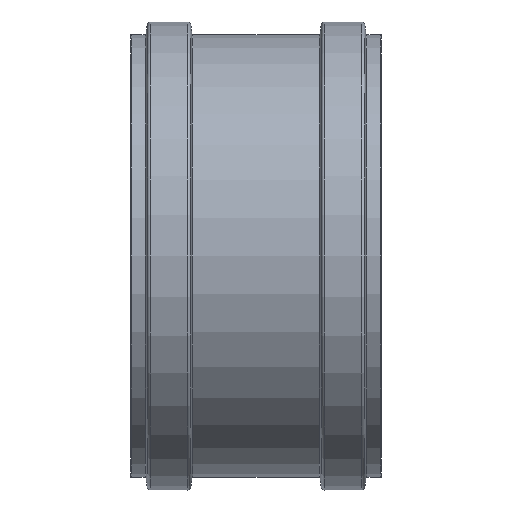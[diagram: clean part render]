
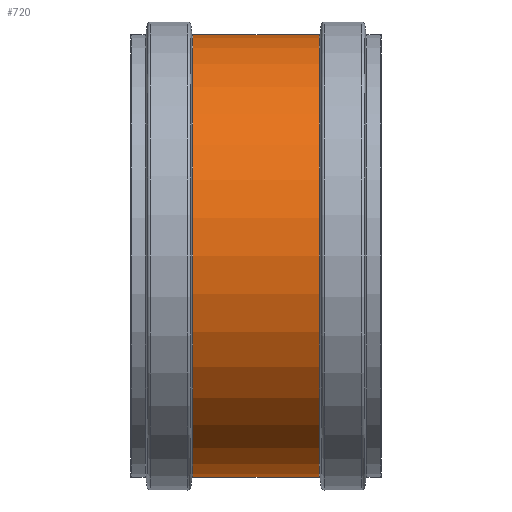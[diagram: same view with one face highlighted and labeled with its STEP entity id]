
A CAD part, left-side view. The second image highlights one B-rep face of the part: STEP entity #720.
In plain terms, the highlighted cylindrical face has radius 261.85 mm (diameter 523.7 mm), a full revolution.
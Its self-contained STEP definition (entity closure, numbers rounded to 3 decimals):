
#36=LINE('',#1366,#54);
#54=VECTOR('',#1123,261.85);
#66=CYLINDRICAL_SURFACE('',#859,261.85);
#104=FACE_OUTER_BOUND('',#146,.T.);
#146=EDGE_LOOP('',(#615,#616,#617,#618,#619,#620));
#229=CIRCLE('',#857,261.85);
#230=CIRCLE('',#858,261.85);
#231=CIRCLE('',#860,261.85);
#232=CIRCLE('',#861,261.85);
#309=VERTEX_POINT('',#1356);
#310=VERTEX_POINT('',#1358);
#311=VERTEX_POINT('',#1362);
#312=VERTEX_POINT('',#1363);
#414=EDGE_CURVE('',#310,#309,#229,.T.);
#415=EDGE_CURVE('',#309,#310,#230,.T.);
#416=EDGE_CURVE('',#311,#312,#231,.T.);
#417=EDGE_CURVE('',#312,#311,#232,.T.);
#418=EDGE_CURVE('',#312,#310,#36,.T.);
#615=ORIENTED_EDGE('',*,*,#416,.F.);
#616=ORIENTED_EDGE('',*,*,#417,.F.);
#617=ORIENTED_EDGE('',*,*,#418,.T.);
#618=ORIENTED_EDGE('',*,*,#414,.T.);
#619=ORIENTED_EDGE('',*,*,#415,.T.);
#620=ORIENTED_EDGE('',*,*,#418,.F.);
#720=ADVANCED_FACE('',(#104),#66,.T.);
#857=AXIS2_PLACEMENT_3D('',#1359,#1113,#1114);
#858=AXIS2_PLACEMENT_3D('',#1360,#1115,#1116);
#859=AXIS2_PLACEMENT_3D('',#1361,#1117,#1118);
#860=AXIS2_PLACEMENT_3D('',#1364,#1119,#1120);
#861=AXIS2_PLACEMENT_3D('',#1365,#1121,#1122);
#1113=DIRECTION('center_axis',(0.,1.,0.));
#1114=DIRECTION('ref_axis',(1.,0.,0.));
#1115=DIRECTION('center_axis',(0.,1.,0.));
#1116=DIRECTION('ref_axis',(1.,0.,0.));
#1117=DIRECTION('center_axis',(0.,1.,0.));
#1118=DIRECTION('ref_axis',(-1.,0.,0.));
#1119=DIRECTION('center_axis',(0.,1.,0.));
#1120=DIRECTION('ref_axis',(1.,0.,0.));
#1121=DIRECTION('center_axis',(0.,1.,0.));
#1122=DIRECTION('ref_axis',(1.,0.,0.));
#1123=DIRECTION('',(0.,-1.,0.));
#1356=CARTESIAN_POINT('',(0.,73.635,-261.85));
#1358=CARTESIAN_POINT('',(261.85,73.635,0.));
#1359=CARTESIAN_POINT('Origin',(0.,73.635,
0.));
#1360=CARTESIAN_POINT('Origin',(0.,73.635,
0.));
#1361=CARTESIAN_POINT('Origin',(0.,148.5,0.));
#1362=CARTESIAN_POINT('',(0.,223.365,-261.85));
#1363=CARTESIAN_POINT('',(261.85,223.365,0.));
#1364=CARTESIAN_POINT('Origin',(0.,223.365,
0.));
#1365=CARTESIAN_POINT('Origin',(0.,223.365,
0.));
#1366=CARTESIAN_POINT('',(261.85,148.5,0.));
